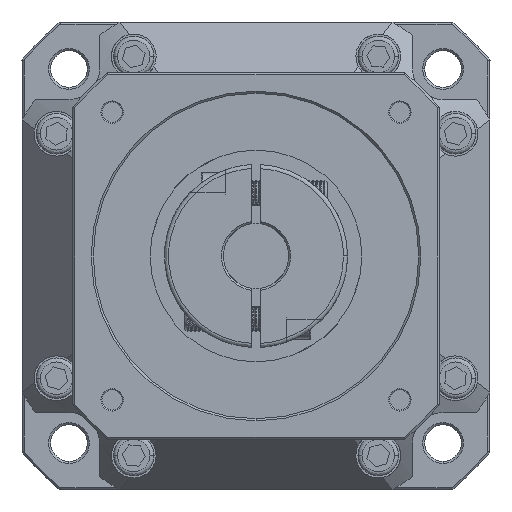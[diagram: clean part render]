
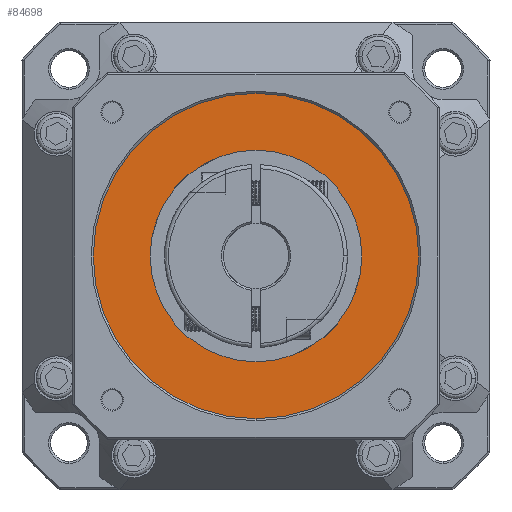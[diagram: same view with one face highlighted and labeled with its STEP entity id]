
A CAD part, front view. The second image highlights one B-rep face of the part: STEP entity #84698.
In plain terms, the highlighted planar face has unit normal (0, 1, 0).
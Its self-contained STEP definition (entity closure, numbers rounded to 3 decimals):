
#889 = AXIS2_PLACEMENT_3D ( 'NONE', #45369, #100414, #53298 ) ;
#7575 = CARTESIAN_POINT ( 'NONE',  ( 0., -160.111, 0. ) ) ;
#9232 = EDGE_CURVE ( 'NONE', #14137, #16558, #34059, .T. ) ;
#10069 = ORIENTED_EDGE ( 'NONE', *, *, #15228, .T. ) ;
#10284 = CARTESIAN_POINT ( 'NONE',  ( 0., -160.111, 40. ) ) ;
#14137 = VERTEX_POINT ( 'NONE', #64457 ) ;
#15228 = EDGE_CURVE ( 'NONE', #95310, #20633, #28776, .T. ) ;
#15451 = DIRECTION ( 'NONE',  ( 0., 0., -1. ) ) ;
#16558 = VERTEX_POINT ( 'NONE', #36915 ) ;
#20596 = DIRECTION ( 'NONE',  ( 0., -1., 0. ) ) ;
#20633 = VERTEX_POINT ( 'NONE', #30087 ) ;
#21355 = ORIENTED_EDGE ( 'NONE', *, *, #47554, .T. ) ;
#27924 = CIRCLE ( 'NONE', #30755, 26. ) ;
#28776 = CIRCLE ( 'NONE', #38207, 40. ) ;
#30087 = CARTESIAN_POINT ( 'NONE',  ( 0., -160.111, -40. ) ) ;
#30755 = AXIS2_PLACEMENT_3D ( 'NONE', #67750, #20596, #75634 ) ;
#34059 = CIRCLE ( 'NONE', #34992, 26. ) ;
#34992 = AXIS2_PLACEMENT_3D ( 'NONE', #89041, #41842, #96906 ) ;
#36915 = CARTESIAN_POINT ( 'NONE',  ( 0., -160.111, 26. ) ) ;
#38207 = AXIS2_PLACEMENT_3D ( 'NONE', #7575, #62602, #15451 ) ;
#41842 = DIRECTION ( 'NONE',  ( 0., -1., 0. ) ) ;
#42398 = AXIS2_PLACEMENT_3D ( 'NONE', #46387, #101406, #54293 ) ;
#45369 = CARTESIAN_POINT ( 'NONE',  ( -40.48, -160.111, -40.48 ) ) ;
#46387 = CARTESIAN_POINT ( 'NONE',  ( 0., -160.111, 0. ) ) ;
#47554 = EDGE_CURVE ( 'NONE', #20633, #95310, #67220, .T. ) ;
#53160 = EDGE_CURVE ( 'NONE', #16558, #14137, #27924, .T. ) ;
#53298 = DIRECTION ( 'NONE',  ( 1., 0., 0. ) ) ;
#53361 = ORIENTED_EDGE ( 'NONE', *, *, #53160, .T. ) ;
#54293 = DIRECTION ( 'NONE',  ( 0., 0., -1. ) ) ;
#60844 = PLANE ( 'NONE',  #889 ) ;
#60990 = EDGE_LOOP ( 'NONE', ( #21355, #10069 ) ) ;
#62602 = DIRECTION ( 'NONE',  ( 0., 1., 0. ) ) ;
#63986 = EDGE_LOOP ( 'NONE', ( #53361, #78694 ) ) ;
#64457 = CARTESIAN_POINT ( 'NONE',  ( 0., -160.111, -26. ) ) ;
#65260 = FACE_BOUND ( 'NONE', #63986, .T. ) ;
#67220 = CIRCLE ( 'NONE', #42398, 40. ) ;
#67750 = CARTESIAN_POINT ( 'NONE',  ( 0., -160.111, 0. ) ) ;
#75634 = DIRECTION ( 'NONE',  ( 0., 0., 1. ) ) ;
#78694 = ORIENTED_EDGE ( 'NONE', *, *, #9232, .T. ) ;
#84698 = ADVANCED_FACE ( 'NONE', ( #65260, #86215 ), #60844, .F. ) ;
#86215 = FACE_OUTER_BOUND ( 'NONE', #60990, .T. ) ;
#89041 = CARTESIAN_POINT ( 'NONE',  ( 0., -160.111, 0. ) ) ;
#95310 = VERTEX_POINT ( 'NONE', #10284 ) ;
#96906 = DIRECTION ( 'NONE',  ( 0., 0., 1. ) ) ;
#100414 = DIRECTION ( 'NONE',  ( 0., -1., 0. ) ) ;
#101406 = DIRECTION ( 'NONE',  ( 0., 1., 0. ) ) ;
